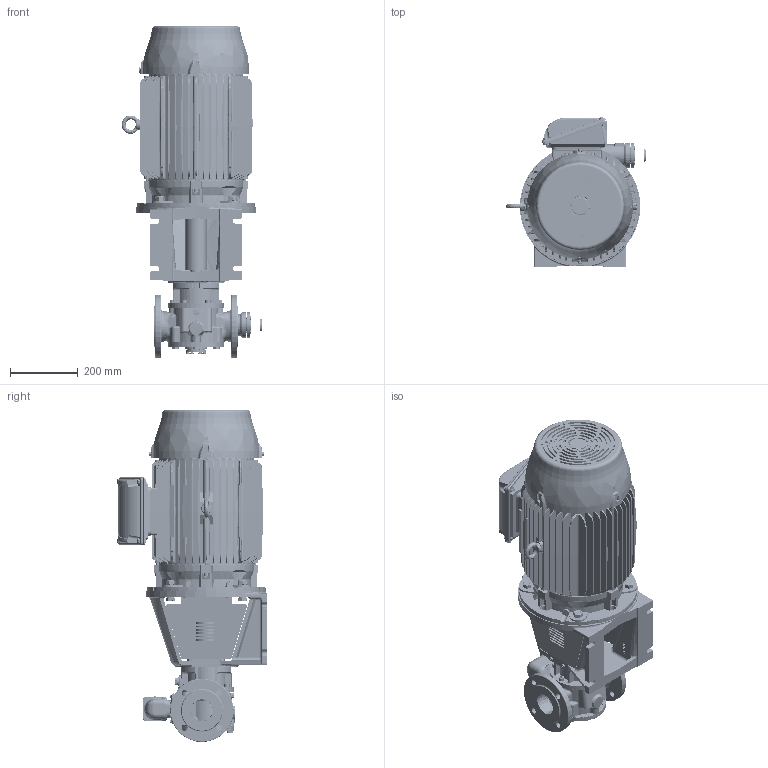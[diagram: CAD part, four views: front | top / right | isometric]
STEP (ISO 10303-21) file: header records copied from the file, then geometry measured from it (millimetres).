
FILE_DESCRIPTION(/* description */ (''),/* implementation_level */ '2;1');
FILE_NAME(/* name */ 'C:\V\JPP\Designs\GEAR PUMPS\PRODUCT ENGINEERING\EUROPE\TG BLOC\TG BLOC_23-65_R5_O_RV1-_160L-STEP.stp',/* time_stamp */ '2021-03-18T15:37:06+01:00',/* author */ ('A77THR'),/* organization */ (''),/* preprocessor_version */ 'ST-DEVELOPER v18.1',/* originating_system */ 'Autodesk Inventor 2020',/* authorisation */ '');
FILE_SCHEMA (('AUTOMOTIVE_DESIGN { 1 0 10303 214 3 1 1 }'));
Length unit declared in the file: millimetre
Products named in the file (1): TG BLOC_23-65_R5_O_RV1-_160L
Bounding box: 415.99 x 444.6 x 980.4 mm (x, y, z)
Volume: 48150026.7 mm3; surface area: 2511299.1 mm2
Topology: 1 solids, 1 shells, 5307 faces, 13772 edges, 8607 vertices
Faces by surface type: plane 2045, bspline 1226, cylinder 1201, cone 599, torus 184, sphere 52
Full cylindrical faces by diameter (mm): 4 x1, 4.5 x8, 4.917 x8, 5 x2, 5.459 x22, 6 x22, 6.647 x1, 7 x26, 7.5 x3, 8 x13, 8.376 x5, 8.5 x2, 8.7 x22, 9.188 x4, 9.4 x1, 10 x12, 10.5 x1, 11.445 x2, 11.5 x4, 11.6 x7, 12 x3, 12.5 x3, 13 x4, 14 x1, 15.011 x3, 15.4 x10, 16 x6, 17.9 x3, 18 x11, 19 x3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
Entity records: 228613 total; most frequent: CARTESIAN_POINT 102895, ORIENTED_EDGE 27242, DIRECTION 22994, EDGE_CURVE 13621, AXIS2_PLACEMENT_3D 8955, VERTEX_POINT 8607, EDGE_LOOP 5742, FACE_OUTER_BOUND 5307
